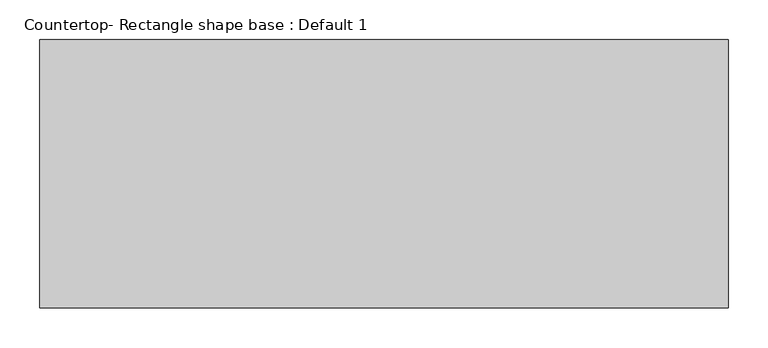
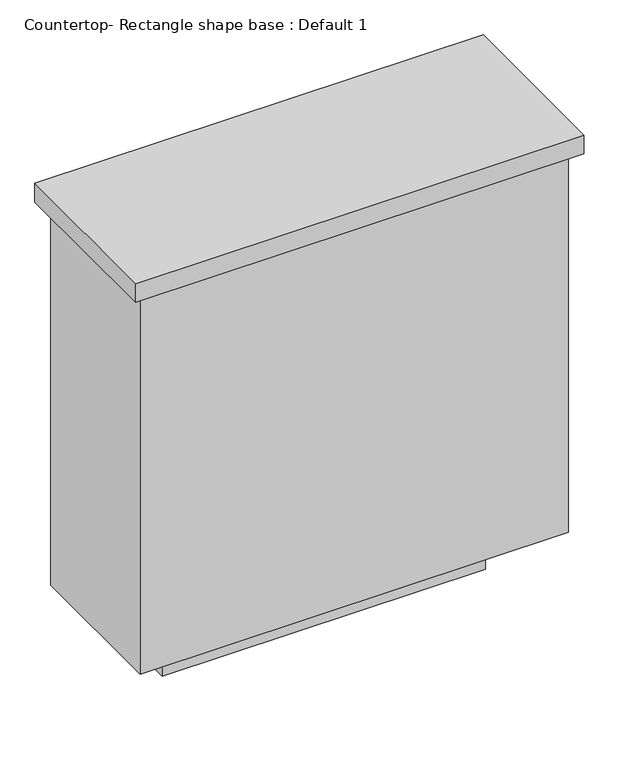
"""IFC4 building model written with IfcOpenShell, lengths in millimetres: proxy geometry, Countertop- Rectangle shape base : Default 1."""

from ifc_helpers import new_model, si_unit, frame, origin, origin_with_axes, place, context, project, spatial, polyline, outline, extrude, source, transform, mapped, element, save


def countertop_rectangle_shape_base_default_1_dbb71e68(model_context):
    return source(origin(), model_context, "Body", "SweptSolid", [
        extrude(outline(polyline([(330.2, 212.725), (330.2, 549.275), (1193.8, 549.275), (1193.8, 212.725), (330.2, 212.725)])), frame((0.0, 0.0, 876.3), z_axis=(0.0, 0.0, 1.0), x_axis=(1.0, 0.0, 0.0)), (0.0, 0.0, 1.0), 38.1),
        extrude(outline(polyline([(1174.75, 530.225), (1174.75, 231.775), (349.25, 231.775), (349.25, 530.225), (1174.75, 530.225)])), frame((0.0, 0.0, 101.6), z_axis=(0.0, 0.0, 1.0), x_axis=(1.0, 0.0, 0.0)), (0.0, 0.0, 1.0), 774.7),
        extrude(outline(polyline([(1073.15, 428.625), (1073.15, 333.375), (450.85, 333.375), (450.85, 428.625), (1073.15, 428.625)])), origin_with_axes(), (0.0, 0.0, 1.0), 101.6),
    ])


if __name__ == "__main__":
    model = new_model("IFC4")
    model_context = context("Model", 3, world=origin())
    ifc_project = project(units=[si_unit("LENGTHUNIT", "METRE", prefix="MILLI")], contexts=[model_context])
    site = spatial("IfcSite", under=ifc_project)
    building = spatial("IfcBuilding", under=site)
    placement = place(None, origin())
    countertop_rectangle_shape_base_default_1_shape = countertop_rectangle_shape_base_default_1_dbb71e68(model_context)
    element("IfcBuildingElementProxy", 1, Name="Countertop- Rectangle shape base : Default 1", ObjectType="Countertop- Rectangle shape base : Default 1", at=placement, inside=building, context=model_context, shape_type="MappedRepresentation", body=[
        mapped(countertop_rectangle_shape_base_default_1_shape, transform((0.0, 0.0, 0.0), x_axis=(1.0, 0.0, 0.0), y_axis=(0.0, 1.0, 0.0), z_axis=(0.0, 0.0, 1.0))),
    ])
    save(model, "model.ifc")
